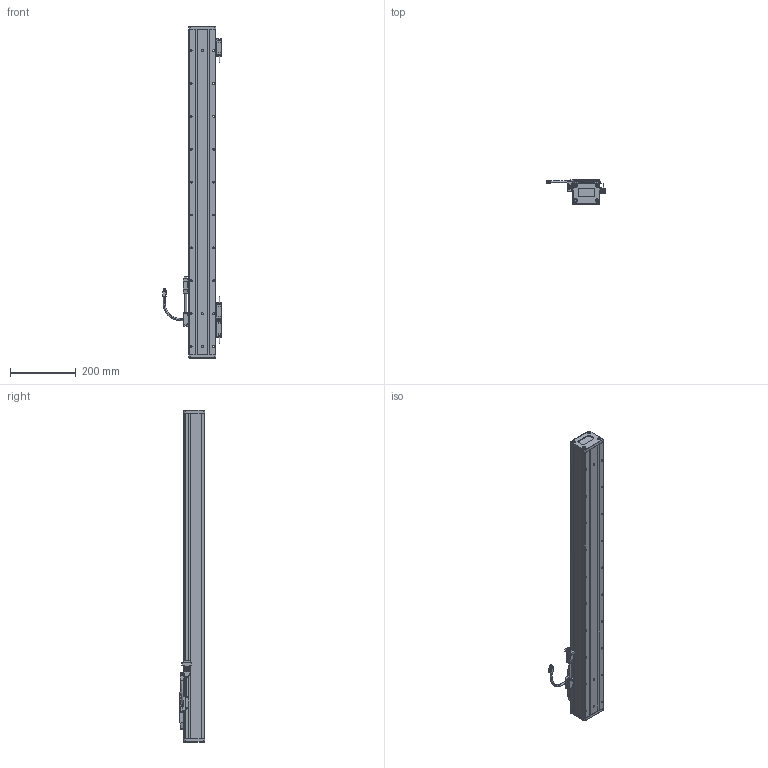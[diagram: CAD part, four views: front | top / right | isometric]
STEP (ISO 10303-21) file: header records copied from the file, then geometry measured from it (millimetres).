
FILE_DESCRIPTION(('Open CASCADE Model'),'2;1');
FILE_NAME('Open CASCADE Shape Model','2025-11-07T02:25:50',('Author'),( 'Open CASCADE'),'Open CASCADE STEP processor 7.6','Open CASCADE 7.6' ,'Unknown');
FILE_SCHEMA(('AUTOMOTIVE_DESIGN { 1 0 10303 214 1 1 1 1 }'));
Length unit declared in the file: millimetre
Products named in the file (24): Open CASCADE STEP translator 7.6 52; Open CASCADE STEP translator 7.6 52.1; Open CASCADE STEP translator 7.6 52.2; Open CASCADE STEP translator 7.6 52.3; Open CASCADE STEP translator 7.6 52.4; Open CASCADE STEP translator 7.6 52.5; Open CASCADE STEP translator 7.6 52.6; Open CASCADE STEP translator 7.6 52.7; Open CASCADE STEP translator 7.6 52.7.1; Open CASCADE STEP translator 7.6 52.7.1.1; Open CASCADE STEP translator 7.6 52.7.1.2; Open CASCADE STEP translator 7.6 52.8; Open CASCADE STEP translator 7.6 52.9; Open CASCADE STEP translator 7.6 52.10; Open CASCADE STEP translator 7.6 52.10.1; Open CASCADE STEP translator 7.6 52.10.1.1; Open CASCADE STEP translator 7.6 52.10.1.2; Open CASCADE STEP translator 7.6 52.10.1.3; Open CASCADE STEP translator 7.6 52.11; Open CASCADE STEP translator 7.6 52.12; Open CASCADE STEP translator 7.6 52.13; Open CASCADE STEP translator 7.6 52.14; Open CASCADE STEP translator 7.6 52.15; Open CASCADE STEP translator 7.6 52.16
Assembly tree (23 placements, depth 4):
  Open CASCADE STEP translator 7.6 52
    Open CASCADE STEP translator 7.6 52.1
    Open CASCADE STEP translator 7.6 52.2
    Open CASCADE STEP translator 7.6 52.3
    Open CASCADE STEP translator 7.6 52.4
    Open CASCADE STEP translator 7.6 52.5
    Open CASCADE STEP translator 7.6 52.6
    Open CASCADE STEP translator 7.6 52.7
      Open CASCADE STEP translator 7.6 52.7.1
        Open CASCADE STEP translator 7.6 52.7.1.1
        Open CASCADE STEP translator 7.6 52.7.1.2
    Open CASCADE STEP translator 7.6 52.8
    Open CASCADE STEP translator 7.6 52.9
    Open CASCADE STEP translator 7.6 52.10
      Open CASCADE STEP translator 7.6 52.10.1
        Open CASCADE STEP translator 7.6 52.10.1.1
        Open CASCADE STEP translator 7.6 52.10.1.2
        Open CASCADE STEP translator 7.6 52.10.1.3
    Open CASCADE STEP translator 7.6 52.11
    Open CASCADE STEP translator 7.6 52.12
    Open CASCADE STEP translator 7.6 52.13
    Open CASCADE STEP translator 7.6 52.14
    Open CASCADE STEP translator 7.6 52.15
    Open CASCADE STEP translator 7.6 52.16
Bounding box: 181.25 x 78 x 1010 mm (x, y, z)
Volume: 3050226.8 mm3; surface area: 657816 mm2
Topology: 19 solids, 19 shells, 1940 faces, 4911 edges, 3121 vertices
Faces by surface type: plane 1082, cylinder 656, cone 112, torus 54, bspline 30, sphere 6
Entity records: 133889 total; most frequent: CARTESIAN_POINT 35559, DIRECTION 18613, LINE 11554, VECTOR 11554, ORIENTED_EDGE 9724, PCURVE 9724, DEFINITIONAL_REPRESENTATION 9724, EDGE_CURVE 4862
